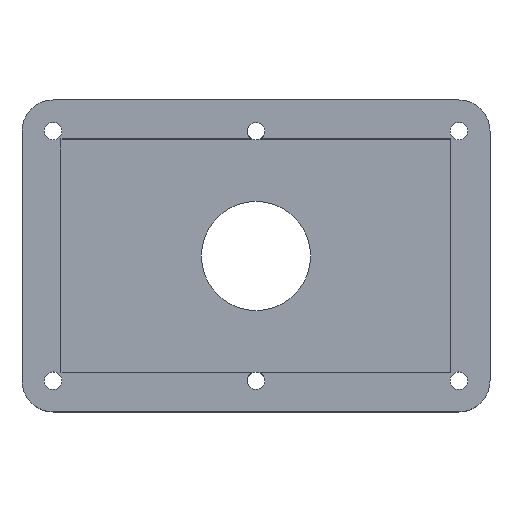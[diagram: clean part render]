
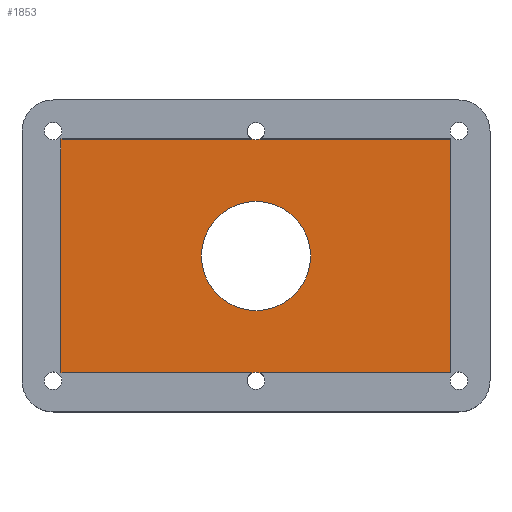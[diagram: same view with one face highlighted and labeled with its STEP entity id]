
A CAD part, top view. The second image highlights one B-rep face of the part: STEP entity #1853.
In plain terms, the highlighted planar face has unit normal (0, 0, 1).
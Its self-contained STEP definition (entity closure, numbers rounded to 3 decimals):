
#450 = PLANE('',#451);
#451 = AXIS2_PLACEMENT_3D('',#452,#453,#454);
#452 = CARTESIAN_POINT('',(50.,-30.,-2.));
#453 = DIRECTION('',(1.,0.,-0.));
#454 = DIRECTION('',(0.,0.,1.));
#476 = PLANE('',#477);
#477 = AXIS2_PLACEMENT_3D('',#478,#479,#480);
#478 = CARTESIAN_POINT('',(-50.,-30.,-2.));
#479 = DIRECTION('',(-0.,1.,0.));
#480 = DIRECTION('',(0.,0.,1.));
#504 = CYLINDRICAL_SURFACE('',#505,2.25);
#505 = AXIS2_PLACEMENT_3D('',#506,#507,#508);
#506 = CARTESIAN_POINT('',(0.,-32.,-15.));
#507 = DIRECTION('',(0.,0.,1.));
#508 = DIRECTION('',(1.,0.,-0.));
#555 = PLANE('',#556);
#556 = AXIS2_PLACEMENT_3D('',#557,#558,#559);
#557 = CARTESIAN_POINT('',(-50.,-30.,-2.));
#558 = DIRECTION('',(-0.,1.,0.));
#559 = DIRECTION('',(0.,0.,1.));
#581 = PLANE('',#582);
#582 = AXIS2_PLACEMENT_3D('',#583,#584,#585);
#583 = CARTESIAN_POINT('',(-50.,-30.,-2.));
#584 = DIRECTION('',(1.,0.,-0.));
#585 = DIRECTION('',(0.,0.,1.));
#607 = PLANE('',#608);
#608 = AXIS2_PLACEMENT_3D('',#609,#610,#611);
#609 = CARTESIAN_POINT('',(-50.,30.,-2.));
#610 = DIRECTION('',(-0.,1.,0.));
#611 = DIRECTION('',(0.,0.,1.));
#635 = CYLINDRICAL_SURFACE('',#636,2.25);
#636 = AXIS2_PLACEMENT_3D('',#637,#638,#639);
#637 = CARTESIAN_POINT('',(0.,32.,-15.));
#638 = DIRECTION('',(0.,0.,1.));
#639 = DIRECTION('',(1.,0.,-0.));
#684 = PLANE('',#685);
#685 = AXIS2_PLACEMENT_3D('',#686,#687,#688);
#686 = CARTESIAN_POINT('',(-50.,30.,-2.));
#687 = DIRECTION('',(-0.,1.,0.));
#688 = DIRECTION('',(0.,0.,1.));
#1078 = CYLINDRICAL_SURFACE('',#1079,14.);
#1079 = AXIS2_PLACEMENT_3D('',#1080,#1081,#1082);
#1080 = CARTESIAN_POINT('',(0.,0.,-15.));
#1081 = DIRECTION('',(0.,0.,1.));
#1082 = DIRECTION('',(1.,0.,-0.));
#1342 = VERTEX_POINT('',#1343);
#1343 = CARTESIAN_POINT('',(50.,-30.,-2.));
#1364 = EDGE_CURVE('',#1342,#1365,#1367,.T.);
#1365 = VERTEX_POINT('',#1366);
#1366 = CARTESIAN_POINT('',(50.,30.,-2.));
#1367 = SURFACE_CURVE('',#1368,(#1372,#1379),.PCURVE_S1.);
#1368 = LINE('',#1369,#1370);
#1369 = CARTESIAN_POINT('',(50.,-30.,-2.));
#1370 = VECTOR('',#1371,1.);
#1371 = DIRECTION('',(-0.,1.,0.));
#1372 = PCURVE('',#450,#1373);
#1373 = DEFINITIONAL_REPRESENTATION('',(#1374),#1378);
#1374 = LINE('',#1375,#1376);
#1375 = CARTESIAN_POINT('',(0.,0.));
#1376 = VECTOR('',#1377,1.);
#1377 = DIRECTION('',(0.,-1.));
#1378 = ( GEOMETRIC_REPRESENTATION_CONTEXT(2) 
PARAMETRIC_REPRESENTATION_CONTEXT() REPRESENTATION_CONTEXT('2D SPACE',''
  ) );
#1379 = PCURVE('',#1380,#1385);
#1380 = PLANE('',#1381);
#1381 = AXIS2_PLACEMENT_3D('',#1382,#1383,#1384);
#1382 = CARTESIAN_POINT('',(-50.,-30.,-2.));
#1383 = DIRECTION('',(0.,0.,1.));
#1384 = DIRECTION('',(1.,0.,-0.));
#1385 = DEFINITIONAL_REPRESENTATION('',(#1386),#1390);
#1386 = LINE('',#1387,#1388);
#1387 = CARTESIAN_POINT('',(100.,0.));
#1388 = VECTOR('',#1389,1.);
#1389 = DIRECTION('',(0.,1.));
#1390 = ( GEOMETRIC_REPRESENTATION_CONTEXT(2) 
PARAMETRIC_REPRESENTATION_CONTEXT() REPRESENTATION_CONTEXT('2D SPACE',''
  ) );
#1418 = EDGE_CURVE('',#1419,#1342,#1421,.T.);
#1419 = VERTEX_POINT('',#1420);
#1420 = CARTESIAN_POINT('',(1.031,-30.,-2.));
#1421 = SURFACE_CURVE('',#1422,(#1426,#1433),.PCURVE_S1.);
#1422 = LINE('',#1423,#1424);
#1423 = CARTESIAN_POINT('',(-50.,-30.,-2.));
#1424 = VECTOR('',#1425,1.);
#1425 = DIRECTION('',(1.,0.,-0.));
#1426 = PCURVE('',#476,#1427);
#1427 = DEFINITIONAL_REPRESENTATION('',(#1428),#1432);
#1428 = LINE('',#1429,#1430);
#1429 = CARTESIAN_POINT('',(0.,0.));
#1430 = VECTOR('',#1431,1.);
#1431 = DIRECTION('',(0.,1.));
#1432 = ( GEOMETRIC_REPRESENTATION_CONTEXT(2) 
PARAMETRIC_REPRESENTATION_CONTEXT() REPRESENTATION_CONTEXT('2D SPACE',''
  ) );
#1433 = PCURVE('',#1380,#1434);
#1434 = DEFINITIONAL_REPRESENTATION('',(#1435),#1439);
#1435 = LINE('',#1436,#1437);
#1436 = CARTESIAN_POINT('',(0.,0.));
#1437 = VECTOR('',#1438,1.);
#1438 = DIRECTION('',(1.,0.));
#1439 = ( GEOMETRIC_REPRESENTATION_CONTEXT(2) 
PARAMETRIC_REPRESENTATION_CONTEXT() REPRESENTATION_CONTEXT('2D SPACE',''
  ) );
#1465 = EDGE_CURVE('',#1466,#1365,#1468,.T.);
#1466 = VERTEX_POINT('',#1467);
#1467 = CARTESIAN_POINT('',(1.031,30.,-2.));
#1468 = SURFACE_CURVE('',#1469,(#1473,#1480),.PCURVE_S1.);
#1469 = LINE('',#1470,#1471);
#1470 = CARTESIAN_POINT('',(-50.,30.,-2.));
#1471 = VECTOR('',#1472,1.);
#1472 = DIRECTION('',(1.,0.,-0.));
#1473 = PCURVE('',#684,#1474);
#1474 = DEFINITIONAL_REPRESENTATION('',(#1475),#1479);
#1475 = LINE('',#1476,#1477);
#1476 = CARTESIAN_POINT('',(0.,0.));
#1477 = VECTOR('',#1478,1.);
#1478 = DIRECTION('',(0.,1.));
#1479 = ( GEOMETRIC_REPRESENTATION_CONTEXT(2) 
PARAMETRIC_REPRESENTATION_CONTEXT() REPRESENTATION_CONTEXT('2D SPACE',''
  ) );
#1480 = PCURVE('',#1380,#1481);
#1481 = DEFINITIONAL_REPRESENTATION('',(#1482),#1486);
#1482 = LINE('',#1483,#1484);
#1483 = CARTESIAN_POINT('',(0.,60.));
#1484 = VECTOR('',#1485,1.);
#1485 = DIRECTION('',(1.,0.));
#1486 = ( GEOMETRIC_REPRESENTATION_CONTEXT(2) 
PARAMETRIC_REPRESENTATION_CONTEXT() REPRESENTATION_CONTEXT('2D SPACE',''
  ) );
#1537 = VERTEX_POINT('',#1538);
#1538 = CARTESIAN_POINT('',(-1.031,-30.,-2.));
#1557 = EDGE_CURVE('',#1419,#1537,#1558,.T.);
#1558 = SURFACE_CURVE('',#1559,(#1564,#1571),.PCURVE_S1.);
#1559 = CIRCLE('',#1560,2.25);
#1560 = AXIS2_PLACEMENT_3D('',#1561,#1562,#1563);
#1561 = CARTESIAN_POINT('',(0.,-32.,-2.));
#1562 = DIRECTION('',(0.,0.,1.));
#1563 = DIRECTION('',(1.,0.,-0.));
#1564 = PCURVE('',#504,#1565);
#1565 = DEFINITIONAL_REPRESENTATION('',(#1566),#1570);
#1566 = LINE('',#1567,#1568);
#1567 = CARTESIAN_POINT('',(0.,13.));
#1568 = VECTOR('',#1569,1.);
#1569 = DIRECTION('',(1.,0.));
#1570 = ( GEOMETRIC_REPRESENTATION_CONTEXT(2) 
PARAMETRIC_REPRESENTATION_CONTEXT() REPRESENTATION_CONTEXT('2D SPACE',''
  ) );
#1571 = PCURVE('',#1380,#1572);
#1572 = DEFINITIONAL_REPRESENTATION('',(#1573),#1577);
#1573 = CIRCLE('',#1574,2.25);
#1574 = AXIS2_PLACEMENT_2D('',#1575,#1576);
#1575 = CARTESIAN_POINT('',(50.,-2.));
#1576 = DIRECTION('',(1.,0.));
#1577 = ( GEOMETRIC_REPRESENTATION_CONTEXT(2) 
PARAMETRIC_REPRESENTATION_CONTEXT() REPRESENTATION_CONTEXT('2D SPACE',''
  ) );
#1609 = EDGE_CURVE('',#1610,#1466,#1612,.T.);
#1610 = VERTEX_POINT('',#1611);
#1611 = CARTESIAN_POINT('',(-1.031,30.,-2.));
#1612 = SURFACE_CURVE('',#1613,(#1618,#1625),.PCURVE_S1.);
#1613 = CIRCLE('',#1614,2.25);
#1614 = AXIS2_PLACEMENT_3D('',#1615,#1616,#1617);
#1615 = CARTESIAN_POINT('',(0.,32.,-2.));
#1616 = DIRECTION('',(0.,0.,1.));
#1617 = DIRECTION('',(1.,0.,-0.));
#1618 = PCURVE('',#635,#1619);
#1619 = DEFINITIONAL_REPRESENTATION('',(#1620),#1624);
#1620 = LINE('',#1621,#1622);
#1621 = CARTESIAN_POINT('',(0.,13.));
#1622 = VECTOR('',#1623,1.);
#1623 = DIRECTION('',(1.,0.));
#1624 = ( GEOMETRIC_REPRESENTATION_CONTEXT(2) 
PARAMETRIC_REPRESENTATION_CONTEXT() REPRESENTATION_CONTEXT('2D SPACE',''
  ) );
#1625 = PCURVE('',#1380,#1626);
#1626 = DEFINITIONAL_REPRESENTATION('',(#1627),#1631);
#1627 = CIRCLE('',#1628,2.25);
#1628 = AXIS2_PLACEMENT_2D('',#1629,#1630);
#1629 = CARTESIAN_POINT('',(50.,62.));
#1630 = DIRECTION('',(1.,0.));
#1631 = ( GEOMETRIC_REPRESENTATION_CONTEXT(2) 
PARAMETRIC_REPRESENTATION_CONTEXT() REPRESENTATION_CONTEXT('2D SPACE',''
  ) );
#1656 = EDGE_CURVE('',#1657,#1537,#1659,.T.);
#1657 = VERTEX_POINT('',#1658);
#1658 = CARTESIAN_POINT('',(-50.,-30.,-2.));
#1659 = SURFACE_CURVE('',#1660,(#1664,#1671),.PCURVE_S1.);
#1660 = LINE('',#1661,#1662);
#1661 = CARTESIAN_POINT('',(-50.,-30.,-2.));
#1662 = VECTOR('',#1663,1.);
#1663 = DIRECTION('',(1.,0.,-0.));
#1664 = PCURVE('',#555,#1665);
#1665 = DEFINITIONAL_REPRESENTATION('',(#1666),#1670);
#1666 = LINE('',#1667,#1668);
#1667 = CARTESIAN_POINT('',(0.,0.));
#1668 = VECTOR('',#1669,1.);
#1669 = DIRECTION('',(0.,1.));
#1670 = ( GEOMETRIC_REPRESENTATION_CONTEXT(2) 
PARAMETRIC_REPRESENTATION_CONTEXT() REPRESENTATION_CONTEXT('2D SPACE',''
  ) );
#1671 = PCURVE('',#1380,#1672);
#1672 = DEFINITIONAL_REPRESENTATION('',(#1673),#1677);
#1673 = LINE('',#1674,#1675);
#1674 = CARTESIAN_POINT('',(0.,0.));
#1675 = VECTOR('',#1676,1.);
#1676 = DIRECTION('',(1.,0.));
#1677 = ( GEOMETRIC_REPRESENTATION_CONTEXT(2) 
PARAMETRIC_REPRESENTATION_CONTEXT() REPRESENTATION_CONTEXT('2D SPACE',''
  ) );
#1705 = EDGE_CURVE('',#1706,#1610,#1708,.T.);
#1706 = VERTEX_POINT('',#1707);
#1707 = CARTESIAN_POINT('',(-50.,30.,-2.));
#1708 = SURFACE_CURVE('',#1709,(#1713,#1720),.PCURVE_S1.);
#1709 = LINE('',#1710,#1711);
#1710 = CARTESIAN_POINT('',(-50.,30.,-2.));
#1711 = VECTOR('',#1712,1.);
#1712 = DIRECTION('',(1.,0.,-0.));
#1713 = PCURVE('',#607,#1714);
#1714 = DEFINITIONAL_REPRESENTATION('',(#1715),#1719);
#1715 = LINE('',#1716,#1717);
#1716 = CARTESIAN_POINT('',(0.,0.));
#1717 = VECTOR('',#1718,1.);
#1718 = DIRECTION('',(0.,1.));
#1719 = ( GEOMETRIC_REPRESENTATION_CONTEXT(2) 
PARAMETRIC_REPRESENTATION_CONTEXT() REPRESENTATION_CONTEXT('2D SPACE',''
  ) );
#1720 = PCURVE('',#1380,#1721);
#1721 = DEFINITIONAL_REPRESENTATION('',(#1722),#1726);
#1722 = LINE('',#1723,#1724);
#1723 = CARTESIAN_POINT('',(0.,60.));
#1724 = VECTOR('',#1725,1.);
#1725 = DIRECTION('',(1.,0.));
#1726 = ( GEOMETRIC_REPRESENTATION_CONTEXT(2) 
PARAMETRIC_REPRESENTATION_CONTEXT() REPRESENTATION_CONTEXT('2D SPACE',''
  ) );
#1754 = EDGE_CURVE('',#1657,#1706,#1755,.T.);
#1755 = SURFACE_CURVE('',#1756,(#1760,#1767),.PCURVE_S1.);
#1756 = LINE('',#1757,#1758);
#1757 = CARTESIAN_POINT('',(-50.,-30.,-2.));
#1758 = VECTOR('',#1759,1.);
#1759 = DIRECTION('',(-0.,1.,0.));
#1760 = PCURVE('',#581,#1761);
#1761 = DEFINITIONAL_REPRESENTATION('',(#1762),#1766);
#1762 = LINE('',#1763,#1764);
#1763 = CARTESIAN_POINT('',(0.,0.));
#1764 = VECTOR('',#1765,1.);
#1765 = DIRECTION('',(0.,-1.));
#1766 = ( GEOMETRIC_REPRESENTATION_CONTEXT(2) 
PARAMETRIC_REPRESENTATION_CONTEXT() REPRESENTATION_CONTEXT('2D SPACE',''
  ) );
#1767 = PCURVE('',#1380,#1768);
#1768 = DEFINITIONAL_REPRESENTATION('',(#1769),#1773);
#1769 = LINE('',#1770,#1771);
#1770 = CARTESIAN_POINT('',(0.,0.));
#1771 = VECTOR('',#1772,1.);
#1772 = DIRECTION('',(0.,1.));
#1773 = ( GEOMETRIC_REPRESENTATION_CONTEXT(2) 
PARAMETRIC_REPRESENTATION_CONTEXT() REPRESENTATION_CONTEXT('2D SPACE',''
  ) );
#1807 = EDGE_CURVE('',#1808,#1808,#1810,.T.);
#1808 = VERTEX_POINT('',#1809);
#1809 = CARTESIAN_POINT('',(14.,0.,-2.));
#1810 = SURFACE_CURVE('',#1811,(#1816,#1823),.PCURVE_S1.);
#1811 = CIRCLE('',#1812,14.);
#1812 = AXIS2_PLACEMENT_3D('',#1813,#1814,#1815);
#1813 = CARTESIAN_POINT('',(0.,0.,-2.));
#1814 = DIRECTION('',(0.,0.,1.));
#1815 = DIRECTION('',(1.,0.,-0.));
#1816 = PCURVE('',#1078,#1817);
#1817 = DEFINITIONAL_REPRESENTATION('',(#1818),#1822);
#1818 = LINE('',#1819,#1820);
#1819 = CARTESIAN_POINT('',(0.,13.));
#1820 = VECTOR('',#1821,1.);
#1821 = DIRECTION('',(1.,0.));
#1822 = ( GEOMETRIC_REPRESENTATION_CONTEXT(2) 
PARAMETRIC_REPRESENTATION_CONTEXT() REPRESENTATION_CONTEXT('2D SPACE',''
  ) );
#1823 = PCURVE('',#1380,#1824);
#1824 = DEFINITIONAL_REPRESENTATION('',(#1825),#1829);
#1825 = CIRCLE('',#1826,14.);
#1826 = AXIS2_PLACEMENT_2D('',#1827,#1828);
#1827 = CARTESIAN_POINT('',(50.,30.));
#1828 = DIRECTION('',(1.,0.));
#1829 = ( GEOMETRIC_REPRESENTATION_CONTEXT(2) 
PARAMETRIC_REPRESENTATION_CONTEXT() REPRESENTATION_CONTEXT('2D SPACE',''
  ) );
#1853 = ADVANCED_FACE('',(#1854,#1864),#1380,.T.);
#1854 = FACE_BOUND('',#1855,.T.);
#1855 = EDGE_LOOP('',(#1856,#1857,#1858,#1859,#1860,#1861,#1862,#1863));
#1856 = ORIENTED_EDGE('',*,*,#1705,.F.);
#1857 = ORIENTED_EDGE('',*,*,#1754,.F.);
#1858 = ORIENTED_EDGE('',*,*,#1656,.T.);
#1859 = ORIENTED_EDGE('',*,*,#1557,.F.);
#1860 = ORIENTED_EDGE('',*,*,#1418,.T.);
#1861 = ORIENTED_EDGE('',*,*,#1364,.T.);
#1862 = ORIENTED_EDGE('',*,*,#1465,.F.);
#1863 = ORIENTED_EDGE('',*,*,#1609,.F.);
#1864 = FACE_BOUND('',#1865,.T.);
#1865 = EDGE_LOOP('',(#1866));
#1866 = ORIENTED_EDGE('',*,*,#1807,.F.);
